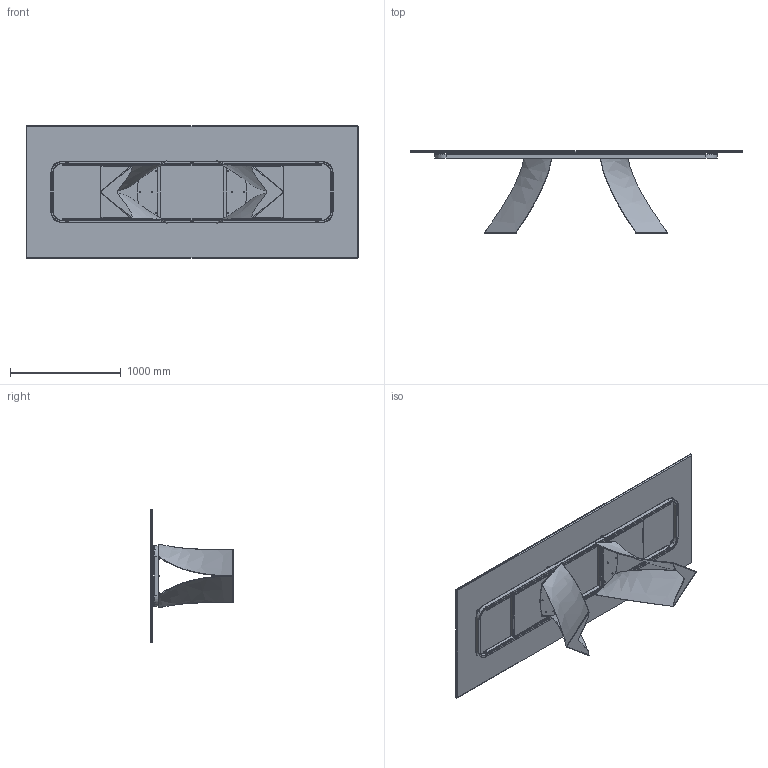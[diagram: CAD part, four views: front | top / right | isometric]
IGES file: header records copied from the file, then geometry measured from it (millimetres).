
Start section: SolidWorks IGES file using analytic representation for surfaces
Global section: file name: Y:\eforma\TECNICO\SOLIDWORKS\E-FORMA\1-TAVOLI\TWIST\02 parts\TW24C_Twist_300x120x75h_Ceramic Rectangular.IGS; native system: SolidWorks 2022; preprocessor: SolidWorks 2022; author: eforma.tech; date: 240807.145112; units: millimetre
Bounding box: 3000 x 741.37 x 1200 mm (x, y, z)
Volume: 70916166.2 mm3; surface area: 20571141 mm2
Topology: 68 solids, 68 shells, 1284 faces, 2986 edges, 1830 vertices
Faces by surface type: revolution 686, plane 532, bspline 66
